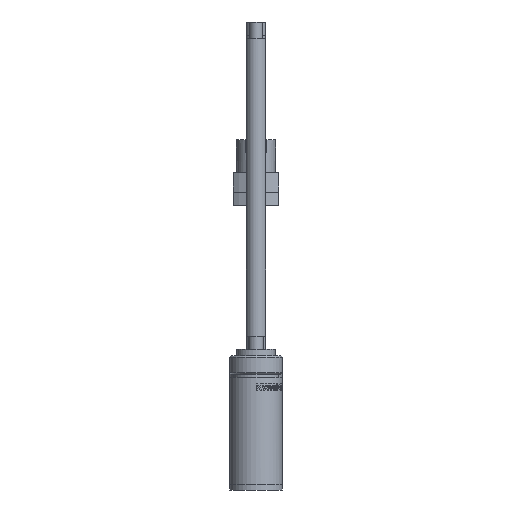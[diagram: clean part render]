
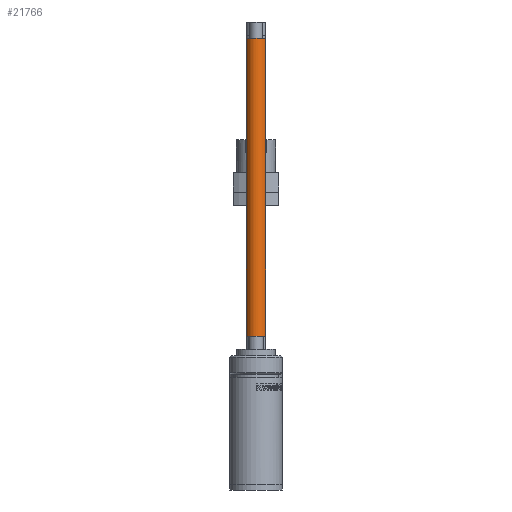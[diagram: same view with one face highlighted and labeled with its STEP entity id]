
A CAD part, left-side view. The second image highlights one B-rep face of the part: STEP entity #21766.
In plain terms, the highlighted cylindrical face has radius 1.5 mm (diameter 3 mm), a full revolution.
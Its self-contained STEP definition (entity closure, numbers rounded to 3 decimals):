
#21766=ADVANCED_FACE('',(#23875,#23876),#22768,.T.);
#22768=CYLINDRICAL_SURFACE('',#53551,1.5);
#23875=FACE_BOUND('',#26608,.T.);
#23876=FACE_BOUND('',#26609,.T.);
#26608=EDGE_LOOP('',(#35709));
#26609=EDGE_LOOP('',(#35710));
#35709=ORIENTED_EDGE('',*,*,#46642,.F.);
#35710=ORIENTED_EDGE('',*,*,#46641,.T.);
#41496=VERTEX_POINT('',#99567);
#41497=VERTEX_POINT('',#99570);
#46641=EDGE_CURVE('',#41496,#41496,#49080,.T.);
#46642=EDGE_CURVE('',#41497,#41497,#49081,.T.);
#49080=CIRCLE('',#53548,1.5);
#49081=CIRCLE('',#53550,1.5);
#53548=AXIS2_PLACEMENT_3D('',#99566,#60025,#60026);
#53550=AXIS2_PLACEMENT_3D('',#99569,#60029,#60030);
#53551=AXIS2_PLACEMENT_3D('',#99571,#60031,#60032);
#60025=DIRECTION('',(0.,0.,-1.));
#60026=DIRECTION('',(-1.,0.,0.));
#60029=DIRECTION('',(0.,0.,-1.));
#60030=DIRECTION('',(-1.,0.,0.));
#60031=DIRECTION('',(0.,0.,-1.));
#60032=DIRECTION('',(-1.,0.,0.));
#99566=CARTESIAN_POINT('',(-108.,0.,69.));
#99567=CARTESIAN_POINT('',(-109.5,0.,69.));
#99569=CARTESIAN_POINT('',(-108.,0.,23.5));
#99570=CARTESIAN_POINT('',(-109.5,0.,23.5));
#99571=CARTESIAN_POINT('',(-108.,0.,20.5));
